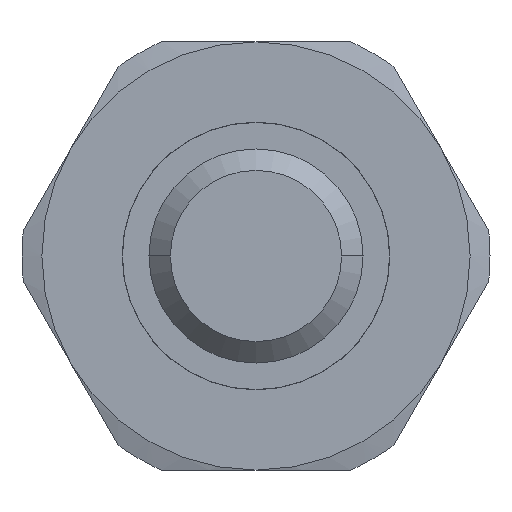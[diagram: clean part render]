
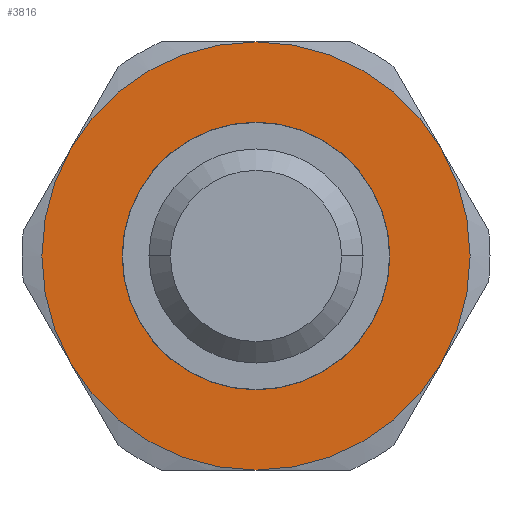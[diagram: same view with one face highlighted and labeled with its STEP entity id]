
A CAD part, left-side view. The second image highlights one B-rep face of the part: STEP entity #3816.
In plain terms, the highlighted planar face has unit normal (-1, 0, 0).
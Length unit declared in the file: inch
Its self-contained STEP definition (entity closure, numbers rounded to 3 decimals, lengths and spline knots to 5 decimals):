
#2002=CARTESIAN_POINT('',(-0.5,-0.3125,0.0));
#2003=VERTEX_POINT('',#2002);
#2012=CARTESIAN_POINT('',(-0.5,0.3125,0.));
#2013=VERTEX_POINT('',#2012);
#2014=CARTESIAN_POINT('',(-0.5,0.0,0.0));
#2015=DIRECTION('',(-1.0,0.0,0.0));
#2016=DIRECTION('',(0.0,-1.0,0.0));
#2017=AXIS2_PLACEMENT_3D('',#2014,#2015,#2016);
#2018=CIRCLE('',#2017,0.3125);
#2019=EDGE_CURVE('',#2003,#2013,#2018,.T.);
#3745=CARTESIAN_POINT('',(-0.5,0.0,0.0));
#3746=DIRECTION('',(-1.0,0.0,0.0));
#3747=DIRECTION('',(0.0,0.0,-1.0));
#3748=AXIS2_PLACEMENT_3D('',#3745,#3746,#3747);
#3749=PLANE('',#3748);
#3750=CARTESIAN_POINT('',(-0.5,0.43301,0.25));
#3751=VERTEX_POINT('',#3750);
#3752=CARTESIAN_POINT('',(-0.5,0.43301,-0.25));
#3753=VERTEX_POINT('',#3752);
#3754=CARTESIAN_POINT('',(-0.5,0.0,0.0));
#3755=DIRECTION('',(-1.0,0.0,0.0));
#3756=DIRECTION('',(0.0,0.0,-1.0));
#3757=AXIS2_PLACEMENT_3D('',#3754,#3755,#3756);
#3758=CIRCLE('',#3757,0.5);
#3759=EDGE_CURVE('',#3751,#3753,#3758,.T.);
#3760=ORIENTED_EDGE('',*,*,#3759,.T.);
#3761=CARTESIAN_POINT('',(-0.5,0.0,-0.5));
#3762=VERTEX_POINT('',#3761);
#3763=CARTESIAN_POINT('',(-0.5,0.0,0.0));
#3764=DIRECTION('',(-1.0,0.0,0.0));
#3765=DIRECTION('',(0.0,0.0,-1.0));
#3766=AXIS2_PLACEMENT_3D('',#3763,#3764,#3765);
#3767=CIRCLE('',#3766,0.5);
#3768=EDGE_CURVE('',#3753,#3762,#3767,.T.);
#3769=ORIENTED_EDGE('',*,*,#3768,.T.);
#3770=CARTESIAN_POINT('',(-0.5,-0.43301,-0.25));
#3771=VERTEX_POINT('',#3770);
#3772=CARTESIAN_POINT('',(-0.5,0.0,0.0));
#3773=DIRECTION('',(-1.0,0.0,0.0));
#3774=DIRECTION('',(0.0,0.0,-1.0));
#3775=AXIS2_PLACEMENT_3D('',#3772,#3773,#3774);
#3776=CIRCLE('',#3775,0.5);
#3777=EDGE_CURVE('',#3762,#3771,#3776,.T.);
#3778=ORIENTED_EDGE('',*,*,#3777,.T.);
#3779=CARTESIAN_POINT('',(-0.5,-0.43301,0.25));
#3780=VERTEX_POINT('',#3779);
#3781=CARTESIAN_POINT('',(-0.5,0.0,0.0));
#3782=DIRECTION('',(-1.0,0.0,0.0));
#3783=DIRECTION('',(0.0,0.0,-1.0));
#3784=AXIS2_PLACEMENT_3D('',#3781,#3782,#3783);
#3785=CIRCLE('',#3784,0.5);
#3786=EDGE_CURVE('',#3771,#3780,#3785,.T.);
#3787=ORIENTED_EDGE('',*,*,#3786,.T.);
#3788=CARTESIAN_POINT('',(-0.5,0.0,0.5));
#3789=VERTEX_POINT('',#3788);
#3790=CARTESIAN_POINT('',(-0.5,0.0,0.0));
#3791=DIRECTION('',(-1.0,0.0,0.0));
#3792=DIRECTION('',(0.0,0.0,-1.0));
#3793=AXIS2_PLACEMENT_3D('',#3790,#3791,#3792);
#3794=CIRCLE('',#3793,0.5);
#3795=EDGE_CURVE('',#3780,#3789,#3794,.T.);
#3796=ORIENTED_EDGE('',*,*,#3795,.T.);
#3797=CARTESIAN_POINT('',(-0.5,0.0,0.0));
#3798=DIRECTION('',(-1.0,0.0,0.0));
#3799=DIRECTION('',(0.0,0.0,-1.0));
#3800=AXIS2_PLACEMENT_3D('',#3797,#3798,#3799);
#3801=CIRCLE('',#3800,0.5);
#3802=EDGE_CURVE('',#3789,#3751,#3801,.T.);
#3803=ORIENTED_EDGE('',*,*,#3802,.T.);
#3804=EDGE_LOOP('',(#3760,#3769,#3778,#3787,#3796,#3803));
#3805=FACE_OUTER_BOUND('',#3804,.T.);
#3806=ORIENTED_EDGE('',*,*,#2019,.F.);
#3807=CARTESIAN_POINT('',(-0.5,0.0,0.0));
#3808=DIRECTION('',(-1.0,0.0,0.0));
#3809=DIRECTION('',(0.0,-1.0,0.0));
#3810=AXIS2_PLACEMENT_3D('',#3807,#3808,#3809);
#3811=CIRCLE('',#3810,0.3125);
#3812=EDGE_CURVE('',#2013,#2003,#3811,.T.);
#3813=ORIENTED_EDGE('',*,*,#3812,.F.);
#3814=EDGE_LOOP('',(#3806,#3813));
#3815=FACE_BOUND('',#3814,.T.);
#3816=ADVANCED_FACE('',(#3805,#3815),#3749,.T.);
